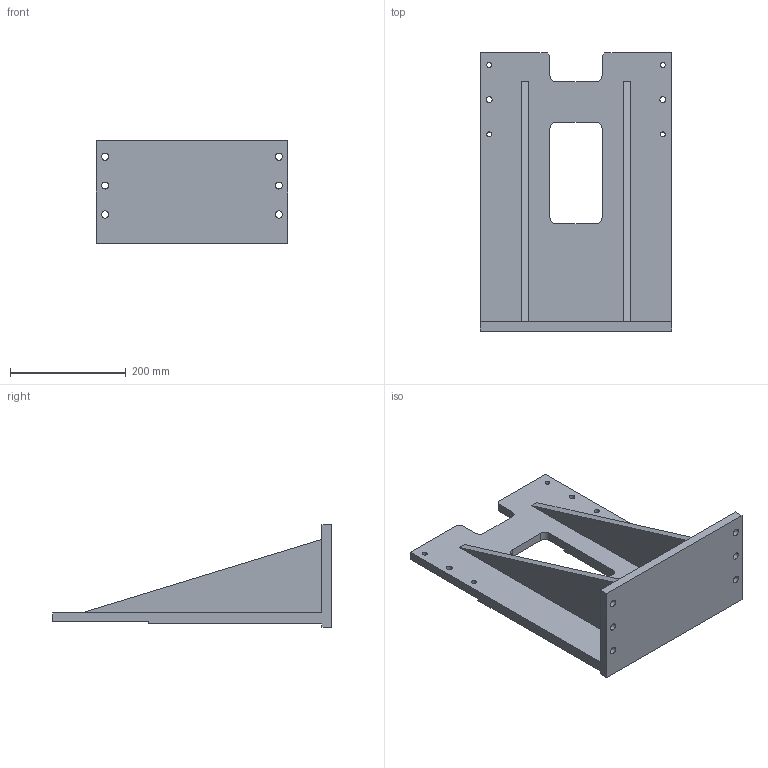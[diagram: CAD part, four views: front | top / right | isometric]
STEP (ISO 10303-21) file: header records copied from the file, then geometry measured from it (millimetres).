
FILE_DESCRIPTION(/* description */ ('DB4-RISER'),/* implementation_level */ '2;1');
FILE_NAME(/* name */ 'C:\Vault Workspace\CAD\Welker\Shot Pin\DBL40\S01896 DB4 Mounting Accessories\S01896E02\S01896E02-400.stp',/* time_stamp */ '2016-05-04T13:51:03-04:00',/* author */ ('klabrecque'),/* organization */ (''),/* preprocessor_version */ 'ST-DEVELOPER v15.2',/* originating_system */ 'Autodesk Inventor 2014',/* authorisation */ '');
FILE_SCHEMA (('AUTOMOTIVE_DESIGN { 1 0 10303 214 3 1 1 }'));
Length unit declared in the file: millimetre
Products named in the file (1): S01896E02-400
Bounding box: 330 x 481 x 177.8 mm (x, y, z)
Volume: 3945616.5 mm3; surface area: 533324.1 mm2
Topology: 1 solids, 1 shells, 47 faces, 150 edges, 104 vertices
Faces by surface type: plane 29, cylinder 18
Full cylindrical faces by diameter (mm): 8.376 x4, 10 x2, 12 x2, 12.5 x4
Entity records: 1628 total; most frequent: CARTESIAN_POINT 266, DIRECTION 258, ORIENTED_EDGE 252, EDGE_CURVE 126, VERTEX_POINT 92, LINE 90, VECTOR 90, EDGE_LOOP 84
